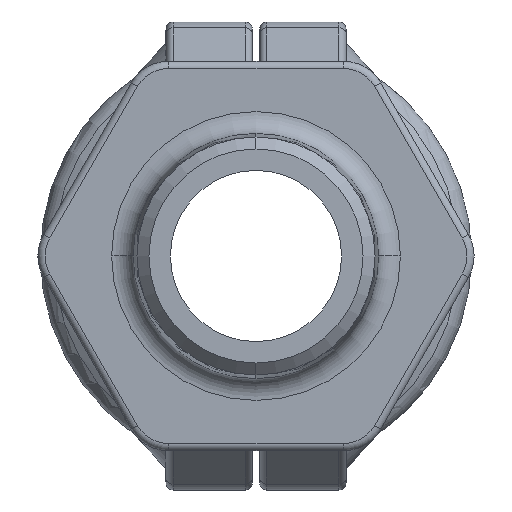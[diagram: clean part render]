
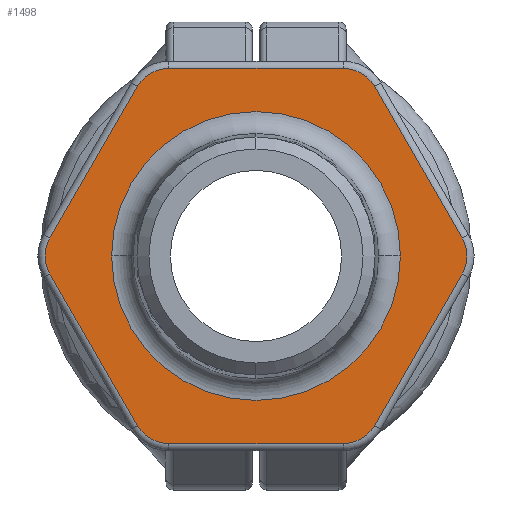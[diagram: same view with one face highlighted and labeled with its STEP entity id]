
A CAD part, left-side view. The second image highlights one B-rep face of the part: STEP entity #1498.
In plain terms, the highlighted planar face has unit normal (-1, 0, 0).
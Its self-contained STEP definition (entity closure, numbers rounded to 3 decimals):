
#129=CARTESIAN_POINT('',(-58.221,12.128,-21.006));
#130=DIRECTION('',(1.,0.,0.));
#131=DIRECTION('',(0.,0.,-1.));
#132=AXIS2_PLACEMENT_3D('',#129,#130,#131);
#137=DIRECTION('',(0.,0.5,0.866));
#138=VECTOR('',#137,24.255);
#139=CARTESIAN_POINT('',(-58.221,16.49,-23.524));
#140=LINE('',#139,#138);
#144=CARTESIAN_POINT('',(-58.221,24.255,
0.));
#145=DIRECTION('',(1.,0.,0.));
#146=DIRECTION('',(0.,0.866,-0.5));
#147=AXIS2_PLACEMENT_3D('',#144,#145,#146);
#152=DIRECTION('',(0.,-0.5,0.866));
#153=VECTOR('',#152,24.255);
#154=CARTESIAN_POINT('',(-58.221,28.618,2.519));
#155=LINE('',#154,#153);
#159=CARTESIAN_POINT('',(-58.221,12.128,21.006));
#160=DIRECTION('',(1.,0.,0.));
#161=DIRECTION('',(0.,0.866,0.5));
#162=AXIS2_PLACEMENT_3D('',#159,#160,#161);
#167=CARTESIAN_POINT('',(-58.221,-12.128,21.006));
#168=DIRECTION('',(1.,0.,0.));
#169=DIRECTION('',(0.,0.,1.));
#170=AXIS2_PLACEMENT_3D('',#167,#168,#169);
#175=DIRECTION('',(0.,-0.5,-0.866));
#176=VECTOR('',#175,24.255);
#177=CARTESIAN_POINT('',(-58.221,-16.49,23.524));
#178=LINE('',#177,#176);
#182=CARTESIAN_POINT('',(-58.221,-24.255,
0.));
#183=DIRECTION('',(1.,0.,0.));
#184=DIRECTION('',(0.,-0.866,0.5));
#185=AXIS2_PLACEMENT_3D('',#182,#183,#184);
#190=DIRECTION('',(0.,0.5,-0.866));
#191=VECTOR('',#190,24.255);
#192=CARTESIAN_POINT('',(-58.221,-28.618,
-2.519));
#193=LINE('',#192,#191);
#197=CARTESIAN_POINT('',(-58.221,-12.128,
-21.006));
#198=DIRECTION('',(1.,0.,0.));
#199=DIRECTION('',(0.,-0.866,-0.5));
#200=AXIS2_PLACEMENT_3D('',#197,#198,#199);
#205=CARTESIAN_POINT('',(-58.221,0.,0.));
#206=DIRECTION('',(-1.,0.,0.));
#207=DIRECTION('',(0.,-1.,0.));
#208=AXIS2_PLACEMENT_3D('',#205,#206,#207);
#213=CARTESIAN_POINT('',(-58.221,0.,0.));
#214=DIRECTION('',(-1.,0.,0.));
#215=DIRECTION('',(0.,0.,1.));
#216=AXIS2_PLACEMENT_3D('',#213,#214,#215);
#221=CARTESIAN_POINT('',(-58.221,0.,0.));
#222=DIRECTION('',(-1.,0.,0.));
#223=DIRECTION('',(0.,1.,0.));
#224=AXIS2_PLACEMENT_3D('',#221,#222,#223);
#1029=DIRECTION('',(0.,-1.,0.));
#1030=VECTOR('',#1029,24.255);
#1031=CARTESIAN_POINT('',(-58.221,12.128,
-26.043));
#1032=LINE('',#1031,#1030);
#1136=DIRECTION('',(0.,1.,0.));
#1137=VECTOR('',#1136,24.255);
#1138=CARTESIAN_POINT('',(-58.221,-12.128,
26.043));
#1139=LINE('',#1138,#1137);
#1211=CARTESIAN_POINT('',(-58.221,0.,20.05));
#1212=CARTESIAN_POINT('',(-58.221,20.05,0.));
#1213=VERTEX_POINT('',#1211);
#1214=VERTEX_POINT('',#1212);
#1215=CARTESIAN_POINT('',(-58.221,-20.05,0.));
#1216=VERTEX_POINT('',#1215);
#1217=CARTESIAN_POINT('',(-58.221,12.128,
-26.043));
#1218=CARTESIAN_POINT('',(-58.221,16.49,
-23.524));
#1219=VERTEX_POINT('',#1217);
#1220=VERTEX_POINT('',#1218);
#1221=CARTESIAN_POINT('',(-58.221,28.618,
-2.519));
#1222=VERTEX_POINT('',#1221);
#1223=CARTESIAN_POINT('',(-58.221,28.618,2.519));
#1224=VERTEX_POINT('',#1223);
#1225=CARTESIAN_POINT('',(-58.221,16.49,23.524));
#1226=VERTEX_POINT('',#1225);
#1227=CARTESIAN_POINT('',(-58.221,12.128,26.043));
#1228=VERTEX_POINT('',#1227);
#1229=CARTESIAN_POINT('',(-58.221,-12.128,
26.043));
#1230=VERTEX_POINT('',#1229);
#1231=CARTESIAN_POINT('',(-58.221,-16.49,
23.524));
#1232=VERTEX_POINT('',#1231);
#1233=CARTESIAN_POINT('',(-58.221,-28.618,
2.519));
#1234=VERTEX_POINT('',#1233);
#1235=CARTESIAN_POINT('',(-58.221,-28.618,
-2.519));
#1236=VERTEX_POINT('',#1235);
#1237=CARTESIAN_POINT('',(-58.221,-16.49,
-23.524));
#1238=VERTEX_POINT('',#1237);
#1239=CARTESIAN_POINT('',(-58.221,-12.128,
-26.043));
#1240=VERTEX_POINT('',#1239);
#1461=CARTESIAN_POINT('',(-58.221,20.05,0.));
#1462=DIRECTION('',(-1.,0.,0.));
#1463=DIRECTION('',(0.,0.,1.));
#1464=AXIS2_PLACEMENT_3D('',#1461,#1462,#1463);
#1465=PLANE('',#1464);
#1467=ORIENTED_EDGE('',*,*,#1466,.T.);
#1469=ORIENTED_EDGE('',*,*,#1468,.T.);
#1471=ORIENTED_EDGE('',*,*,#1470,.T.);
#1473=ORIENTED_EDGE('',*,*,#1472,.T.);
#1475=ORIENTED_EDGE('',*,*,#1474,.T.);
#1477=ORIENTED_EDGE('',*,*,#1476,.F.);
#1479=ORIENTED_EDGE('',*,*,#1478,.T.);
#1481=ORIENTED_EDGE('',*,*,#1480,.T.);
#1483=ORIENTED_EDGE('',*,*,#1482,.T.);
#1485=ORIENTED_EDGE('',*,*,#1484,.T.);
#1487=ORIENTED_EDGE('',*,*,#1486,.T.);
#1489=ORIENTED_EDGE('',*,*,#1488,.F.);
#1490=EDGE_LOOP('',(#1467,#1469,#1471,#1473,#1475,#1477,#1479,#1481,#1483,#1485,
#1487,#1489));
#1491=FACE_OUTER_BOUND('',#1490,.F.);
#1492=ORIENTED_EDGE('',*,*,#1450,.T.);
#1493=ORIENTED_EDGE('',*,*,#1448,.T.);
#1495=ORIENTED_EDGE('',*,*,#1494,.T.);
#1496=EDGE_LOOP('',(#1492,#1493,#1495));
#1497=FACE_BOUND('',#1496,.F.);
#133=CIRCLE('',#132,5.037);
#148=CIRCLE('',#147,5.037);
#163=CIRCLE('',#162,5.037);
#171=CIRCLE('',#170,5.037);
#186=CIRCLE('',#185,5.037);
#201=CIRCLE('',#200,5.037);
#209=CIRCLE('',#208,20.05);
#217=CIRCLE('',#216,20.05);
#225=CIRCLE('',#224,20.05);
#1448=EDGE_CURVE('',#1213,#1214,#217,.T.);
#1450=EDGE_CURVE('',#1216,#1213,#209,.T.);
#1466=EDGE_CURVE('',#1219,#1220,#133,.T.);
#1468=EDGE_CURVE('',#1220,#1222,#140,.T.);
#1470=EDGE_CURVE('',#1222,#1224,#148,.T.);
#1472=EDGE_CURVE('',#1224,#1226,#155,.T.);
#1474=EDGE_CURVE('',#1226,#1228,#163,.T.);
#1476=EDGE_CURVE('',#1230,#1228,#1139,.T.);
#1478=EDGE_CURVE('',#1230,#1232,#171,.T.);
#1480=EDGE_CURVE('',#1232,#1234,#178,.T.);
#1482=EDGE_CURVE('',#1234,#1236,#186,.T.);
#1484=EDGE_CURVE('',#1236,#1238,#193,.T.);
#1486=EDGE_CURVE('',#1238,#1240,#201,.T.);
#1488=EDGE_CURVE('',#1219,#1240,#1032,.T.);
#1494=EDGE_CURVE('',#1214,#1216,#225,.T.);
#1498=ADVANCED_FACE('',(#1491,#1497),#1465,.T.);
